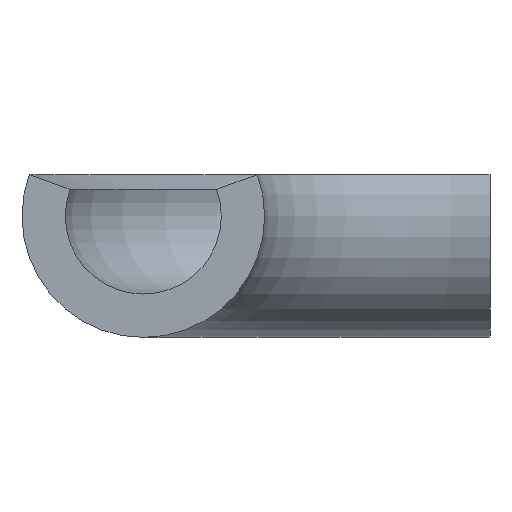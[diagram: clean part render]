
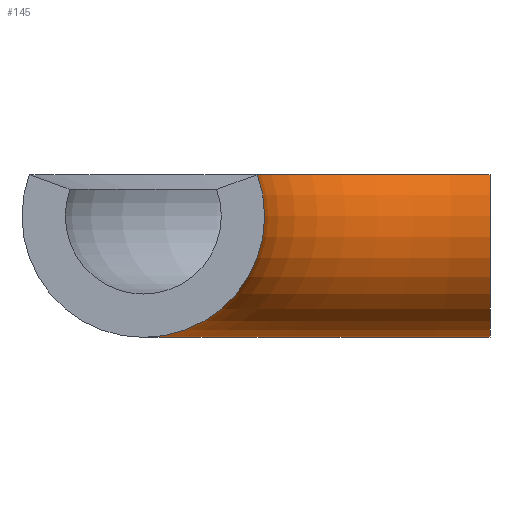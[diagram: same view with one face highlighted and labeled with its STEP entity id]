
A CAD part, left-side view. The second image highlights one B-rep face of the part: STEP entity #145.
In plain terms, the highlighted toroidal (fillet/blend) face has major radius 20 mm and minor radius 7 mm.
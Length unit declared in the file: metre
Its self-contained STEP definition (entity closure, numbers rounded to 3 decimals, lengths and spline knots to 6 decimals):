
#18=TOROIDAL_SURFACE('',#170,0.02,0.007);
#20=CIRCLE('',#168,0.026578);
#22=CIRCLE('',#171,0.007);
#23=CIRCLE('',#172,0.013422);
#24=CIRCLE('',#173,0.007);
#34=ORIENTED_EDGE('',*,*,#71,.T.);
#35=ORIENTED_EDGE('',*,*,#74,.F.);
#36=ORIENTED_EDGE('',*,*,#75,.F.);
#37=ORIENTED_EDGE('',*,*,#76,.T.);
#71=EDGE_CURVE('',#92,#90,#20,.T.);
#74=EDGE_CURVE('',#94,#90,#22,.T.);
#75=EDGE_CURVE('',#95,#94,#23,.T.);
#76=EDGE_CURVE('',#95,#92,#24,.T.);
#90=VERTEX_POINT('',#242);
#92=VERTEX_POINT('',#245);
#94=VERTEX_POINT('',#251);
#95=VERTEX_POINT('',#253);
#123=EDGE_LOOP('',(#34,#35,#36,#37));
#133=FACE_BOUND('',#123,.T.);
#145=ADVANCED_FACE('',(#133),#18,.T.);
#168=AXIS2_PLACEMENT_3D('',#244,#192,#193);
#170=AXIS2_PLACEMENT_3D('',#249,#197,#198);
#171=AXIS2_PLACEMENT_3D('',#250,#199,#200);
#172=AXIS2_PLACEMENT_3D('',#252,#201,#202);
#173=AXIS2_PLACEMENT_3D('',#254,#203,#204);
#192=DIRECTION('',(0.,0.,-1.));
#193=DIRECTION('',(0.,1.,0.));
#197=DIRECTION('',(0.,0.,-1.));
#198=DIRECTION('',(-1.,0.,0.));
#199=DIRECTION('',(0.,-1.,0.));
#200=DIRECTION('',(-0.94,0.,0.342));
#201=DIRECTION('',(0.,0.,-1.));
#202=DIRECTION('',(0.,1.,0.));
#203=DIRECTION('',(1.,0.,0.));
#204=DIRECTION('',(0.,-0.94,0.342));
#242=CARTESIAN_POINT('',(-0.114349,0.317199,0.002394));
#244=CARTESIAN_POINT('',(-0.140927,0.317199,0.002394));
#245=CARTESIAN_POINT('',(-0.140927,0.343777,0.002394));
#249=CARTESIAN_POINT('',(-0.140927,0.317199,0.));
#250=CARTESIAN_POINT('',(-0.120927,0.317199,0.));
#251=CARTESIAN_POINT('',(-0.127504,0.317199,0.002394));
#252=CARTESIAN_POINT('',(-0.140927,0.317199,0.002394));
#253=CARTESIAN_POINT('',(-0.140927,0.330621,0.002394));
#254=CARTESIAN_POINT('',(-0.140927,0.337199,0.));
